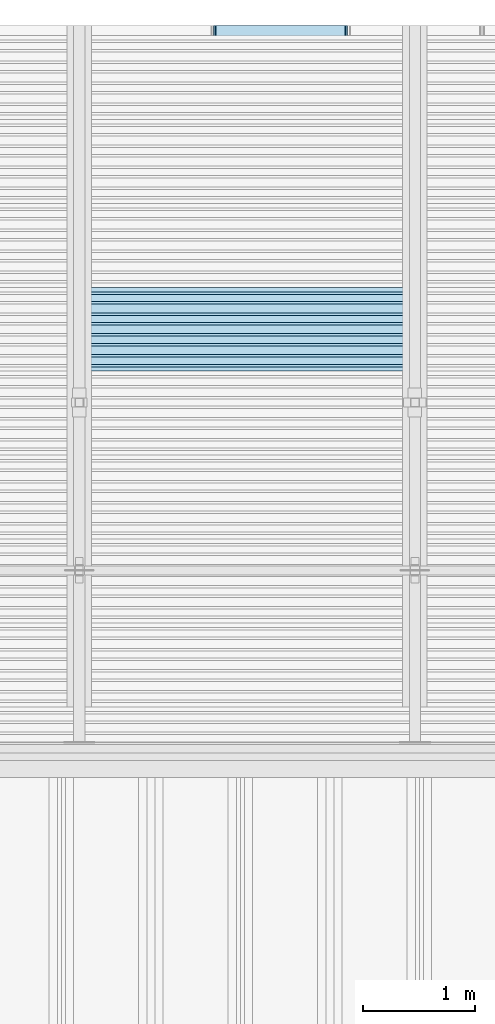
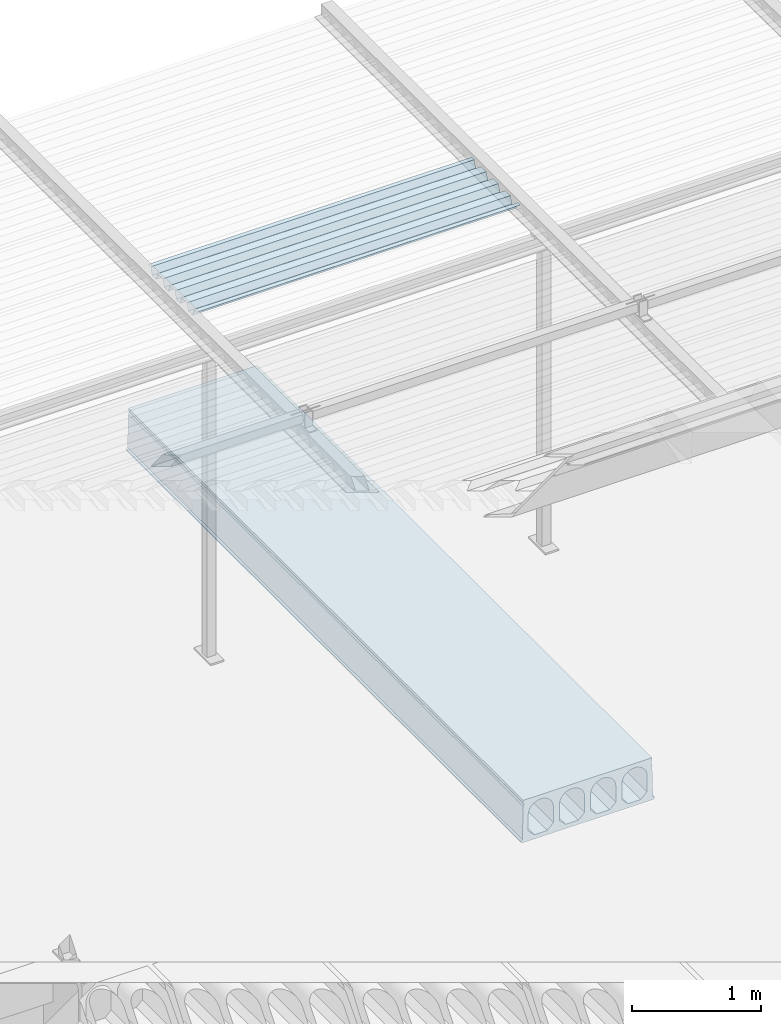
# One storey, part 88 of 98: 2 slabs.
"""IFC2X3 building model written with IfcOpenShell, lengths in millimetres."""

from ifc_helpers import new_model, entity, si_unit, converted_unit, derived_unit, direction, frame, origin_with_axes, place, context, subcontext, project, spatial, faceted_brep, material, type_object, element, save


model = new_model("IFC2X3")

# Units and contexts
model_context = context("Model", 3, precision=0.01, world=frame((0.0, 4.29681676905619e-09, 0.0)), true_north=direction((4.01073788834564e-13, 1.0)))
plan_context = context("Plan", 3, precision=0.01, world=frame((0.0, 4.29681676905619e-09, 0.0)), true_north=direction((4.01073788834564e-13, 1.0)))
body_context = subcontext(model_context, "Body", "Model", "MODEL_VIEW")
ifc_project = project(units=[converted_unit("PLANEANGLEUNIT", "DEGREE", entity("IfcPositiveLengthMeasure", 0.0174532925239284), si_unit("PLANEANGLEUNIT", "RADIAN"), dimensions=[0, 0, 0, 0, 0, 0, 0]), si_unit("AREAUNIT", "SQUARE_METRE"), si_unit("LENGTHUNIT", "METRE", prefix="MILLI"), si_unit("MASSUNIT", "GRAM", prefix="KILO"), si_unit("POWERUNIT", "WATT"), si_unit("PRESSUREUNIT", "PASCAL"), si_unit("FORCEUNIT", "NEWTON", prefix="KILO"), si_unit("ELECTRICCURRENTUNIT", "AMPERE"), si_unit("THERMODYNAMICTEMPERATUREUNIT", "DEGREE_CELSIUS"), si_unit("TIMEUNIT", "SECOND"), si_unit("VOLUMEUNIT", "CUBIC_METRE"), derived_unit("LINEARVELOCITYUNIT", [(si_unit("LENGTHUNIT", "METRE"), 1), (si_unit("TIMEUNIT", "SECOND"), -1)]), derived_unit("VOLUMETRICFLOWRATEUNIT", [(si_unit("VOLUMEUNIT", "CUBIC_METRE"), 1), (si_unit("TIMEUNIT", "SECOND"), -1)]), derived_unit("THERMALTRANSMITTANCEUNIT", [(si_unit("POWERUNIT", "WATT"), 1), (si_unit("THERMODYNAMICTEMPERATUREUNIT", "KELVIN"), -1), (si_unit("AREAUNIT", "SQUARE_METRE"), -1)])], contexts=[model_context, plan_context])

# Site, building, storey
site_placement = place(None, frame((0.0, -4.29681676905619e-09, 0.0), z_axis=(0.0, 0.0, 1.0), x_axis=(1.0, 0.0, 0.0)))
site = spatial("IfcSite", under=ifc_project, at=site_placement, Name="Gardermoen", CompositionType="ELEMENT")
building_placement = place(site_placement, frame((0.0, 4.29681676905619e-09, 0.0), z_axis=(0.0, 0.0, 1.0), x_axis=(1.0, 0.0, 0.0)))
building = spatial("IfcBuilding", under=site, at=building_placement, Name="TS", CompositionType="ELEMENT")
storey_placement = place(building_placement, origin_with_axes())
storey = spatial("IfcBuildingStorey", under=building, at=storey_placement, Name="D", CompositionType="ELEMENT", Elevation=0.0)

# Slabs
slab_type_1 = type_object("IfcSlabType", Name="HD400", PredefinedType="NOTDEFINED")
slab_1_placement = place(storey_placement, frame((524799.999766, 414739.995625, 203600.0), z_axis=(0.0, 0.0, 1.0), x_axis=(0.0, 1.0, 0.0)))
element("IfcSlab", 1, at=slab_1_placement, inside=storey, type_object=slab_type_1, Name="HULLDEKKE", ObjectType="HD400", PredefinedType="FLOOR", context=body_context, shape_type="Brep", body=[
    faceted_brep([(6130.19582840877, 600.0, -190.0), (6130.19582840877, 600.0, -180.0), (0.0, 600.0, -180.0), (0.0, 600.0, -190.0), (6130.19582840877, 585.0, -170.0), (0.0, 585.0, -170.0), (6130.19582840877, 577.5, 145.0), (0.0, 577.5, 145.0), (6130.19582840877, 570.0, 160.0), (0.0, 570.0, 160.0), (6130.19582840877, 577.5, 175.0), (0.0, 577.5, 175.0), (6130.19582840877, 577.5, 200.0), (0.0, 577.5, 200.0), (6130.19582840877, -577.5, 200.0), (0.0, -577.5, 200.0), (6130.19582840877, -577.5, 175.0), (0.0, -577.5, 175.0), (6130.19582840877, -570.0, 160.0), (0.0, -570.0, 160.0), (6130.19582840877, -577.5, 145.0), (0.0, -577.5, 145.0), (6130.19582840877, -585.0, -170.0), (0.0, -585.0, -170.0), (6130.19582840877, -600.0, -180.0), (0.0, -600.0, -180.0), (6130.19582840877, -600.0, -190.0), (0.0, -600.0, -190.0), (6130.19582840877, -583.380004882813, -200.0), (0.0, -583.380004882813, -200.0), (6130.19582840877, 583.380004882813, -200.0), (0.0, 583.380004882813, -200.0), (6130.19582840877, -362.5, -160.0), (6130.19582840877, -477.5, -160.0), (0.0, -477.5, -160.0), (0.0, -362.5, -160.0), (6130.19582840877, -532.5, -105.0), (0.0, -532.5, -105.0), (6130.19582840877, -532.5, 47.5), (0.0, -532.5, 47.5), (6130.19582840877, -532.115755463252, 56.7901763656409), (0.0, -532.115755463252, 56.7901763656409), (6130.19582840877, -530.965646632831, 66.0168914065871), (0.0, -530.965646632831, 66.0168914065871), (6130.19582840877, -529.057529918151, 75.1171173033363), (0.0, -529.057529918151, 75.1171173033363), (6130.19582840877, -526.404439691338, 84.028690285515), (0.0, -526.404439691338, 84.028690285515), (6130.19582840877, -523.024499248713, 92.6907352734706), (0.0, -523.024499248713, 92.6907352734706), (6130.19582840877, -518.940797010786, 101.044081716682), (0.0, -518.940797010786, 101.044081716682), (6130.19582840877, -514.181228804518, 109.031667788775), (0.0, -514.181228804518, 109.031667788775), (6130.19582840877, -508.778307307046, 116.598930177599), (0.0, -508.778307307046, 116.598930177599), (6130.19582840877, -502.768939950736, 123.694176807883), (0.0, -502.768939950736, 123.694176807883), (6130.19582840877, -496.194176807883, 130.268939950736), (0.0, -496.194176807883, 130.268939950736), (6130.19582840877, -489.098930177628, 136.278307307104), (0.0, -489.098930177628, 136.278307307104), (6130.19582840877, -481.531667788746, 141.681228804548), (0.0, -481.531667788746, 141.681228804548), (6130.19582840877, -473.544081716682, 146.440797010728), (0.0, -473.544081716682, 146.440797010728), (6130.19582840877, -465.190735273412, 150.524499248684), (0.0, -465.190735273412, 150.524499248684), (6130.19582840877, -456.528690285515, 153.904439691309), (0.0, -456.528690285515, 153.904439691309), (6130.19582840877, -447.617117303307, 156.55752991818), (0.0, -447.617117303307, 156.55752991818), (6130.19582840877, -438.516891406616, 158.465646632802), (0.0, -438.516891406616, 158.465646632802), (6130.19582840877, -429.290176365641, 159.615755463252), (0.0, -429.290176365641, 159.615755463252), (6130.19582840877, -420.0, 160.0), (0.0, -420.0, 160.0), (6130.19582840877, -410.709823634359, 159.615755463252), (0.0, -410.709823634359, 159.615755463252), (6130.19582840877, -401.483108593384, 158.465646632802), (0.0, -401.483108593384, 158.465646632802), (6130.19582840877, -392.382882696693, 156.55752991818), (0.0, -392.382882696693, 156.55752991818), (6130.19582840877, -383.471309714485, 153.904439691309), (0.0, -383.471309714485, 153.904439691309), (6130.19582840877, -374.809264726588, 150.524499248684), (0.0, -374.809264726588, 150.524499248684), (6130.19582840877, -366.455918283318, 146.440797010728), (0.0, -366.455918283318, 146.440797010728), (6130.19582840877, -358.468332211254, 141.681228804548), (0.0, -358.468332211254, 141.681228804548), (6130.19582840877, -350.901069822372, 136.278307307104), (0.0, -350.901069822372, 136.278307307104), (6130.19582840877, -343.805823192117, 130.268939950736), (0.0, -343.805823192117, 130.268939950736), (6130.19582840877, -337.231060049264, 123.694176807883), (0.0, -337.231060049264, 123.694176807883), (6130.19582840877, -331.221692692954, 116.598930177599), (0.0, -331.221692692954, 116.598930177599), (6130.19582840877, -325.818771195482, 109.031667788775), (0.0, -325.818771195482, 109.031667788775), (6130.19582840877, -321.059202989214, 101.044081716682), (0.0, -321.059202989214, 101.044081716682), (6130.19582840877, -316.975500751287, 92.6907352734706), (0.0, -316.975500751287, 92.6907352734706), (6130.19582840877, -313.595560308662, 84.028690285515), (0.0, -313.595560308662, 84.028690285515), (6130.19582840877, -310.942470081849, 75.1171173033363), (0.0, -310.942470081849, 75.1171173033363), (6130.19582840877, -309.034353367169, 66.0168914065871), (0.0, -309.034353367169, 66.0168914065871), (6130.19582840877, -307.884244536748, 56.7901763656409), (0.0, -307.884244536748, 56.7901763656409), (6130.19582840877, -307.5, 47.5), (0.0, -307.5, 47.5), (6130.19582840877, -307.5, -105.0), (0.0, -307.5, -105.0), (6130.19582840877, -82.5, -160.0), (6130.19582840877, -197.5, -160.0), (0.0, -197.5, -160.0), (0.0, -82.5, -160.0), (6130.19582840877, -252.5, -105.0), (0.0, -252.5, -105.0), (6130.19582840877, -252.5, 47.5), (0.0, -252.5, 47.5), (6130.19582840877, -252.115755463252, 56.7901763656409), (0.0, -252.115755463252, 56.7901763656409), (6130.19582840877, -250.965646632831, 66.0168914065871), (0.0, -250.965646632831, 66.0168914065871), (6130.19582840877, -249.057529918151, 75.1171173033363), (0.0, -249.057529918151, 75.1171173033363), (6130.19582840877, -246.404439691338, 84.028690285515), (0.0, -246.404439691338, 84.028690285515), (6130.19582840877, -243.024499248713, 92.6907352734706), (0.0, -243.024499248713, 92.6907352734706), (6130.19582840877, -238.940797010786, 101.044081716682), (0.0, -238.940797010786, 101.044081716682), (6130.19582840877, -234.181228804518, 109.031667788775), (0.0, -234.181228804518, 109.031667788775), (6130.19582840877, -228.778307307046, 116.598930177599), (0.0, -228.778307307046, 116.598930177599), (6130.19582840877, -222.768939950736, 123.694176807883), (0.0, -222.768939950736, 123.694176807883), (6130.19582840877, -216.194176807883, 130.268939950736), (0.0, -216.194176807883, 130.268939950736), (6130.19582840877, -209.098930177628, 136.278307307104), (0.0, -209.098930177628, 136.278307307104), (6130.19582840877, -201.531667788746, 141.681228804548), (0.0, -201.531667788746, 141.681228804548), (6130.19582840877, -193.544081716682, 146.440797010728), (0.0, -193.544081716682, 146.440797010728), (6130.19582840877, -185.190735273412, 150.524499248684), (0.0, -185.190735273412, 150.524499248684), (6130.19582840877, -176.528690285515, 153.904439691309), (0.0, -176.528690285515, 153.904439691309), (6130.19582840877, -167.617117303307, 156.55752991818), (0.0, -167.617117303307, 156.55752991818), (6130.19582840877, -158.516891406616, 158.465646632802), (0.0, -158.516891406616, 158.465646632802), (6130.19582840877, -149.290176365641, 159.615755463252), (0.0, -149.290176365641, 159.615755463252), (6130.19582840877, -140.0, 160.0), (0.0, -140.0, 160.0), (6130.19582840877, -130.709823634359, 159.615755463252), (0.0, -130.709823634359, 159.615755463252), (6130.19582840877, -121.483108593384, 158.465646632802), (0.0, -121.483108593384, 158.465646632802), (6130.19582840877, -112.382882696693, 156.55752991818), (0.0, -112.382882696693, 156.55752991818), (6130.19582840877, -103.471309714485, 153.904439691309), (0.0, -103.471309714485, 153.904439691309), (6130.19582840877, -94.8092647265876, 150.524499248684), (0.0, -94.8092647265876, 150.524499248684), (6130.19582840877, -86.4559182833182, 146.440797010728), (0.0, -86.4559182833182, 146.440797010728), (6130.19582840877, -78.4683322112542, 141.681228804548), (0.0, -78.4683322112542, 141.681228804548), (6130.19582840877, -70.9010698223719, 136.278307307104), (0.0, -70.9010698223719, 136.278307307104), (6130.19582840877, -63.8058231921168, 130.268939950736), (0.0, -63.8058231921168, 130.268939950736), (6130.19582840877, -57.2310600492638, 123.694176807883), (0.0, -57.2310600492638, 123.694176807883), (6130.19582840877, -51.2216926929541, 116.598930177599), (0.0, -51.2216926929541, 116.598930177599), (6130.19582840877, -45.8187711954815, 109.031667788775), (0.0, -45.8187711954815, 109.031667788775), (6130.19582840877, -41.0592029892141, 101.044081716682), (0.0, -41.0592029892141, 101.044081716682), (6130.19582840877, -36.9755007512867, 92.6907352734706), (0.0, -36.9755007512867, 92.6907352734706), (6130.19582840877, -33.5955603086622, 84.028690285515), (0.0, -33.5955603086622, 84.028690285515), (6130.19582840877, -30.942470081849, 75.1171173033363), (0.0, -30.942470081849, 75.1171173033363), (6130.19582840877, -29.0343533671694, 66.0168914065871), (0.0, -29.0343533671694, 66.0168914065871), (6130.19582840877, -27.8842445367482, 56.7901763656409), (0.0, -27.8842445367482, 56.7901763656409), (6130.19582840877, -27.5, 47.5), (0.0, -27.5, 47.5), (6130.19582840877, -27.5, -105.0), (0.0, -27.5, -105.0), (6130.19582840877, 197.5, -160.0), (6130.19582840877, 82.5, -160.0), (0.0, 82.5, -160.0), (0.0, 197.5, -160.0), (6130.19582840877, 27.5, -105.0), (0.0, 27.5, -105.0), (6130.19582840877, 27.5, 47.5), (0.0, 27.5, 47.5), (6130.19582840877, 27.8842445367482, 56.7901763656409), (0.0, 27.8842445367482, 56.7901763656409), (6130.19582840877, 29.0343533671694, 66.0168914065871), (0.0, 29.0343533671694, 66.0168914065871), (6130.19582840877, 30.942470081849, 75.1171173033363), (0.0, 30.942470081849, 75.1171173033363), (6130.19582840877, 33.5955603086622, 84.028690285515), (0.0, 33.5955603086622, 84.028690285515), (6130.19582840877, 36.9755007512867, 92.6907352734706), (0.0, 36.9755007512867, 92.6907352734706), (6130.19582840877, 41.0592029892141, 101.044081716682), (0.0, 41.0592029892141, 101.044081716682), (6130.19582840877, 45.8187711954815, 109.031667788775), (0.0, 45.8187711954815, 109.031667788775), (6130.19582840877, 51.2216926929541, 116.598930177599), (0.0, 51.2216926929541, 116.598930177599), (6130.19582840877, 57.2310600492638, 123.694176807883), (0.0, 57.2310600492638, 123.694176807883), (6130.19582840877, 63.8058231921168, 130.268939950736), (0.0, 63.8058231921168, 130.268939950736), (6130.19582840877, 70.9010698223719, 136.278307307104), (0.0, 70.9010698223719, 136.278307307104), (6130.19582840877, 78.4683322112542, 141.681228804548), (0.0, 78.4683322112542, 141.681228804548), (6130.19582840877, 86.4559182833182, 146.440797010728), (0.0, 86.4559182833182, 146.440797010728), (6130.19582840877, 94.8092647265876, 150.524499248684), (0.0, 94.8092647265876, 150.524499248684), (6130.19582840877, 103.471309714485, 153.904439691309), (0.0, 103.471309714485, 153.904439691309), (6130.19582840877, 112.382882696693, 156.55752991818), (0.0, 112.382882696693, 156.55752991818), (6130.19582840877, 121.483108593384, 158.465646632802), (0.0, 121.483108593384, 158.465646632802), (6130.19582840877, 130.709823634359, 159.615755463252), (0.0, 130.709823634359, 159.615755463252), (6130.19582840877, 140.0, 160.0), (0.0, 140.0, 160.0), (6130.19582840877, 149.290176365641, 159.615755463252), (0.0, 149.290176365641, 159.615755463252), (6130.19582840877, 158.516891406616, 158.465646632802), (0.0, 158.516891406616, 158.465646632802), (6130.19582840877, 167.617117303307, 156.55752991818), (0.0, 167.617117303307, 156.55752991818), (6130.19582840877, 176.528690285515, 153.904439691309), (0.0, 176.528690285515, 153.904439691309), (6130.19582840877, 185.190735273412, 150.524499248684), (0.0, 185.190735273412, 150.524499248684), (6130.19582840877, 193.544081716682, 146.440797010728), (0.0, 193.544081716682, 146.440797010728), (6130.19582840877, 201.531667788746, 141.681228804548), (0.0, 201.531667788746, 141.681228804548), (6130.19582840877, 209.098930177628, 136.278307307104), (0.0, 209.098930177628, 136.278307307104), (6130.19582840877, 216.194176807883, 130.268939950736), (0.0, 216.194176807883, 130.268939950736), (6130.19582840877, 222.768939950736, 123.694176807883), (0.0, 222.768939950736, 123.694176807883), (6130.19582840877, 228.778307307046, 116.598930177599), (0.0, 228.778307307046, 116.598930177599), (6130.19582840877, 234.181228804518, 109.031667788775), (0.0, 234.181228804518, 109.031667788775), (6130.19582840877, 238.940797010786, 101.044081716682), (0.0, 238.940797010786, 101.044081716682), (6130.19582840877, 243.024499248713, 92.6907352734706), (0.0, 243.024499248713, 92.6907352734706), (6130.19582840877, 246.404439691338, 84.028690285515), (0.0, 246.404439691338, 84.028690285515), (6130.19582840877, 249.057529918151, 75.1171173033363), (0.0, 249.057529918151, 75.1171173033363), (6130.19582840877, 250.965646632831, 66.0168914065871), (0.0, 250.965646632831, 66.0168914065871), (6130.19582840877, 252.115755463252, 56.7901763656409), (0.0, 252.115755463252, 56.7901763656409), (6130.19582840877, 252.5, 47.5), (0.0, 252.5, 47.5), (6130.19582840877, 252.5, -105.0), (0.0, 252.5, -105.0), (6130.19582840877, 477.5, -160.0), (6130.19582840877, 362.5, -160.0), (0.0, 362.5, -160.0), (0.0, 477.5, -160.0), (6130.19582840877, 307.5, -105.0), (0.0, 307.5, -105.0), (6130.19582840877, 307.5, 47.5), (0.0, 307.5, 47.5), (6130.19582840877, 307.884244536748, 56.7901763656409), (0.0, 307.884244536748, 56.7901763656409), (6130.19582840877, 309.034353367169, 66.0168914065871), (0.0, 309.034353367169, 66.0168914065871), (6130.19582840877, 310.942470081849, 75.1171173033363), (0.0, 310.942470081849, 75.1171173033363), (6130.19582840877, 313.595560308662, 84.028690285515), (0.0, 313.595560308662, 84.028690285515), (6130.19582840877, 316.975500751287, 92.6907352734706), (0.0, 316.975500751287, 92.6907352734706), (6130.19582840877, 321.059202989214, 101.044081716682), (0.0, 321.059202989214, 101.044081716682), (6130.19582840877, 325.818771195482, 109.031667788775), (0.0, 325.818771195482, 109.031667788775), (6130.19582840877, 331.221692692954, 116.598930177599), (0.0, 331.221692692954, 116.598930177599), (6130.19582840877, 337.231060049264, 123.694176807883), (0.0, 337.231060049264, 123.694176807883), (6130.19582840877, 343.805823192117, 130.268939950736), (0.0, 343.805823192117, 130.268939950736), (6130.19582840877, 350.901069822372, 136.278307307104), (0.0, 350.901069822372, 136.278307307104), (6130.19582840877, 358.468332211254, 141.681228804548), (0.0, 358.468332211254, 141.681228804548), (6130.19582840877, 366.455918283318, 146.440797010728), (0.0, 366.455918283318, 146.440797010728), (6130.19582840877, 374.809264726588, 150.524499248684), (0.0, 374.809264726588, 150.524499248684), (6130.19582840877, 383.471309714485, 153.904439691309), (0.0, 383.471309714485, 153.904439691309), (6130.19582840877, 392.382882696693, 156.55752991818), (0.0, 392.382882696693, 156.55752991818), (6130.19582840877, 401.483108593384, 158.465646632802), (0.0, 401.483108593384, 158.465646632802), (6130.19582840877, 410.709823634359, 159.615755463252), (0.0, 410.709823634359, 159.615755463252), (6130.19582840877, 420.0, 160.0), (0.0, 420.0, 160.0), (6130.19582840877, 429.290176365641, 159.615755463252), (0.0, 429.290176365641, 159.615755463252), (6130.19582840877, 438.516891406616, 158.465646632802), (0.0, 438.516891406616, 158.465646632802), (6130.19582840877, 447.617117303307, 156.55752991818), (0.0, 447.617117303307, 156.55752991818), (6130.19582840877, 456.528690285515, 153.904439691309), (0.0, 456.528690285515, 153.904439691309), (6130.19582840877, 465.190735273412, 150.524499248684), (0.0, 465.190735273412, 150.524499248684), (6130.19582840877, 473.544081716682, 146.440797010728), (0.0, 473.544081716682, 146.440797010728), (6130.19582840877, 481.531667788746, 141.681228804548), (0.0, 481.531667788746, 141.681228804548), (6130.19582840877, 489.098930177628, 136.278307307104), (0.0, 489.098930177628, 136.278307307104), (6130.19582840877, 496.194176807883, 130.268939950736), (0.0, 496.194176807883, 130.268939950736), (6130.19582840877, 502.768939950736, 123.694176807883), (0.0, 502.768939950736, 123.694176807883), (6130.19582840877, 508.778307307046, 116.598930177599), (0.0, 508.778307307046, 116.598930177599), (6130.19582840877, 514.181228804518, 109.031667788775), (0.0, 514.181228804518, 109.031667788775), (6130.19582840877, 518.940797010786, 101.044081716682), (0.0, 518.940797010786, 101.044081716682), (6130.19582840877, 523.024499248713, 92.6907352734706), (0.0, 523.024499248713, 92.6907352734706), (6130.19582840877, 526.404439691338, 84.028690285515), (0.0, 526.404439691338, 84.028690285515), (6130.19582840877, 529.057529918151, 75.1171173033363), (0.0, 529.057529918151, 75.1171173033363), (6130.19582840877, 530.965646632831, 66.0168914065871), (0.0, 530.965646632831, 66.0168914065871), (6130.19582840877, 532.115755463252, 56.7901763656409), (0.0, 532.115755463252, 56.7901763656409), (6130.19582840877, 532.5, 47.5), (0.0, 532.5, 47.5), (6130.19582840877, 532.5, -105.0), (0.0, 532.5, -105.0)], [[[0, 1, 2, 3]], [[1, 4, 5, 2]], [[4, 6, 7, 5]], [[6, 8, 9, 7]], [[8, 10, 11, 9]], [[10, 12, 13, 11]], [[12, 14, 15, 13]], [[14, 16, 17, 15]], [[16, 18, 19, 17]], [[18, 20, 21, 19]], [[20, 22, 23, 21]], [[22, 24, 25, 23]], [[24, 26, 27, 25]], [[26, 28, 29, 27]], [[28, 30, 31, 29]], [[30, 0, 3, 31]], [[32, 33, 34, 35]], [[33, 36, 37, 34]], [[36, 38, 39, 37]], [[38, 40, 41, 39]], [[40, 42, 43, 41]], [[42, 44, 45, 43]], [[44, 46, 47, 45]], [[46, 48, 49, 47]], [[48, 50, 51, 49]], [[50, 52, 53, 51]], [[52, 54, 55, 53]], [[54, 56, 57, 55]], [[56, 58, 59, 57]], [[58, 60, 61, 59]], [[60, 62, 63, 61]], [[62, 64, 65, 63]], [[64, 66, 67, 65]], [[66, 68, 69, 67]], [[68, 70, 71, 69]], [[70, 72, 73, 71]], [[72, 74, 75, 73]], [[74, 76, 77, 75]], [[76, 78, 79, 77]], [[78, 80, 81, 79]], [[80, 82, 83, 81]], [[82, 84, 85, 83]], [[84, 86, 87, 85]], [[86, 88, 89, 87]], [[88, 90, 91, 89]], [[90, 92, 93, 91]], [[92, 94, 95, 93]], [[94, 96, 97, 95]], [[96, 98, 99, 97]], [[98, 100, 101, 99]], [[100, 102, 103, 101]], [[102, 104, 105, 103]], [[104, 106, 107, 105]], [[106, 108, 109, 107]], [[108, 110, 111, 109]], [[110, 112, 113, 111]], [[112, 114, 115, 113]], [[114, 116, 117, 115]], [[116, 32, 35, 117]], [[118, 119, 120, 121]], [[119, 122, 123, 120]], [[122, 124, 125, 123]], [[124, 126, 127, 125]], [[126, 128, 129, 127]], [[128, 130, 131, 129]], [[130, 132, 133, 131]], [[132, 134, 135, 133]], [[134, 136, 137, 135]], [[136, 138, 139, 137]], [[138, 140, 141, 139]], [[140, 142, 143, 141]], [[142, 144, 145, 143]], [[144, 146, 147, 145]], [[146, 148, 149, 147]], [[148, 150, 151, 149]], [[150, 152, 153, 151]], [[152, 154, 155, 153]], [[154, 156, 157, 155]], [[156, 158, 159, 157]], [[158, 160, 161, 159]], [[160, 162, 163, 161]], [[162, 164, 165, 163]], [[164, 166, 167, 165]], [[166, 168, 169, 167]], [[168, 170, 171, 169]], [[170, 172, 173, 171]], [[172, 174, 175, 173]], [[174, 176, 177, 175]], [[176, 178, 179, 177]], [[178, 180, 181, 179]], [[180, 182, 183, 181]], [[182, 184, 185, 183]], [[184, 186, 187, 185]], [[186, 188, 189, 187]], [[188, 190, 191, 189]], [[190, 192, 193, 191]], [[192, 194, 195, 193]], [[194, 196, 197, 195]], [[196, 198, 199, 197]], [[198, 200, 201, 199]], [[200, 202, 203, 201]], [[202, 118, 121, 203]], [[204, 205, 206, 207]], [[205, 208, 209, 206]], [[208, 210, 211, 209]], [[210, 212, 213, 211]], [[212, 214, 215, 213]], [[214, 216, 217, 215]], [[216, 218, 219, 217]], [[218, 220, 221, 219]], [[220, 222, 223, 221]], [[222, 224, 225, 223]], [[224, 226, 227, 225]], [[226, 228, 229, 227]], [[228, 230, 231, 229]], [[230, 232, 233, 231]], [[232, 234, 235, 233]], [[234, 236, 237, 235]], [[236, 238, 239, 237]], [[238, 240, 241, 239]], [[240, 242, 243, 241]], [[242, 244, 245, 243]], [[244, 246, 247, 245]], [[246, 248, 249, 247]], [[248, 250, 251, 249]], [[250, 252, 253, 251]], [[252, 254, 255, 253]], [[254, 256, 257, 255]], [[256, 258, 259, 257]], [[258, 260, 261, 259]], [[260, 262, 263, 261]], [[262, 264, 265, 263]], [[264, 266, 267, 265]], [[266, 268, 269, 267]], [[268, 270, 271, 269]], [[270, 272, 273, 271]], [[272, 274, 275, 273]], [[274, 276, 277, 275]], [[276, 278, 279, 277]], [[278, 280, 281, 279]], [[280, 282, 283, 281]], [[282, 284, 285, 283]], [[284, 286, 287, 285]], [[286, 288, 289, 287]], [[288, 204, 207, 289]], [[290, 291, 292, 293]], [[291, 294, 295, 292]], [[294, 296, 297, 295]], [[296, 298, 299, 297]], [[298, 300, 301, 299]], [[300, 302, 303, 301]], [[302, 304, 305, 303]], [[304, 306, 307, 305]], [[306, 308, 309, 307]], [[308, 310, 311, 309]], [[310, 312, 313, 311]], [[312, 314, 315, 313]], [[314, 316, 317, 315]], [[316, 318, 319, 317]], [[318, 320, 321, 319]], [[320, 322, 323, 321]], [[322, 324, 325, 323]], [[324, 326, 327, 325]], [[326, 328, 329, 327]], [[328, 330, 331, 329]], [[330, 332, 333, 331]], [[332, 334, 335, 333]], [[334, 336, 337, 335]], [[336, 338, 339, 337]], [[338, 340, 341, 339]], [[340, 342, 343, 341]], [[342, 344, 345, 343]], [[344, 346, 347, 345]], [[346, 348, 349, 347]], [[348, 350, 351, 349]], [[350, 352, 353, 351]], [[352, 354, 355, 353]], [[354, 356, 357, 355]], [[356, 358, 359, 357]], [[358, 360, 361, 359]], [[360, 362, 363, 361]], [[362, 364, 365, 363]], [[364, 366, 367, 365]], [[366, 368, 369, 367]], [[368, 370, 371, 369]], [[370, 372, 373, 371]], [[372, 374, 375, 373]], [[374, 290, 293, 375]], [[3, 2, 5, 7, 9, 11, 13, 15, 17, 19, 21, 23, 25, 27, 29, 31], [293, 292, 295, 297, 299, 301, 303, 305, 307, 309, 311, 313, 315, 317, 319, 321, 323, 325, 327, 329, 331, 333, 335, 337, 339, 341, 343, 345, 347, 349, 351, 353, 355, 357, 359, 361, 363, 365, 367, 369, 371, 373, 375], [207, 206, 209, 211, 213, 215, 217, 219, 221, 223, 225, 227, 229, 231, 233, 235, 237, 239, 241, 243, 245, 247, 249, 251, 253, 255, 257, 259, 261, 263, 265, 267, 269, 271, 273, 275, 277, 279, 281, 283, 285, 287, 289], [121, 120, 123, 125, 127, 129, 131, 133, 135, 137, 139, 141, 143, 145, 147, 149, 151, 153, 155, 157, 159, 161, 163, 165, 167, 169, 171, 173, 175, 177, 179, 181, 183, 185, 187, 189, 191, 193, 195, 197, 199, 201, 203], [35, 34, 37, 39, 41, 43, 45, 47, 49, 51, 53, 55, 57, 59, 61, 63, 65, 67, 69, 71, 73, 75, 77, 79, 81, 83, 85, 87, 89, 91, 93, 95, 97, 99, 101, 103, 105, 107, 109, 111, 113, 115, 117]], [[30, 28, 26, 24, 22, 20, 18, 16, 14, 12, 10, 8, 6, 4, 1, 0], [116, 114, 112, 110, 108, 106, 104, 102, 100, 98, 96, 94, 92, 90, 88, 86, 84, 82, 80, 78, 76, 74, 72, 70, 68, 66, 64, 62, 60, 58, 56, 54, 52, 50, 48, 46, 44, 42, 40, 38, 36, 33, 32], [202, 200, 198, 196, 194, 192, 190, 188, 186, 184, 182, 180, 178, 176, 174, 172, 170, 168, 166, 164, 162, 160, 158, 156, 154, 152, 150, 148, 146, 144, 142, 140, 138, 136, 134, 132, 130, 128, 126, 124, 122, 119, 118], [288, 286, 284, 282, 280, 278, 276, 274, 272, 270, 268, 266, 264, 262, 260, 258, 256, 254, 252, 250, 248, 246, 244, 242, 240, 238, 236, 234, 232, 230, 228, 226, 224, 222, 220, 218, 216, 214, 212, 210, 208, 205, 204], [374, 372, 370, 368, 366, 364, 362, 360, 358, 356, 354, 352, 350, 348, 346, 344, 342, 340, 338, 336, 334, 332, 330, 328, 326, 324, 322, 320, 318, 316, 314, 312, 310, 308, 306, 304, 302, 300, 298, 296, 294, 291, 290]]], orient=[[False], [False], [False], [False], [False], [False], [False], [False], [False], [False], [False], [False], [False], [False], [False], [False], [False], [False], [False], [False], [False], [False], [False], [False], [False], [False], [False], [False], [False], [False], [False], [False], [False], [False], [False], [False], [False], [False], [False], [False], [False], [False], [False], [False], [False], [False], [False], [False], [False], [False], [False], [False], [False], [False], [False], [False], [False], [False], [False], [False], [False], [False], [False], [False], [False], [False], [False], [False], [False], [False], [False], [False], [False], [False], [False], [False], [False], [False], [False], [False], [False], [False], [False], [False], [False], [False], [False], [False], [False], [False], [False], [False], [False], [False], [False], [False], [False], [False], [False], [False], [False], [False], [False], [False], [False], [False], [False], [False], [False], [False], [False], [False], [False], [False], [False], [False], [False], [False], [False], [False], [False], [False], [False], [False], [False], [False], [False], [False], [False], [False], [False], [False], [False], [False], [False], [False], [False], [False], [False], [False], [False], [False], [False], [False], [False], [False], [False], [False], [False], [False], [False], [False], [False], [False], [False], [False], [False], [False], [False], [False], [False], [False], [False], [False], [False], [False], [False], [False], [False], [False], [False], [False], [False], [False], [False], [False], [False], [False], [False], [False], [False], [False], [False], [False], [False], [False], [False], [False], [False, False, False, False, False], [False, False, False, False, False]]),
])
ifc_material = material(Name="STEEL/S355")
slab_type_2 = type_object("IfcSlabType", Name="PLANJA70", PredefinedType="NOTDEFINED")
slab_2_placement = place(storey_placement, frame((525950.000000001, 418154.996695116, 206958.849718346), z_axis=(0.0, 0.0, 1.0), x_axis=(-0.999999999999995, -9.99999902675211e-08, 0.0)))
element("IfcSlab", 2, at=slab_2_placement, inside=storey, type_object=slab_type_2, material=ifc_material, Name="STÅLTAK", ObjectType="PLANJA70", PredefinedType="FLOOR", context=body_context, shape_type="Brep", body=[
    faceted_brep([(0.0, 375.0, 34.1500015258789), (0.0, 335.299987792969, 34.1500015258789), (2900.00079747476, 335.299987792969, 34.1500015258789), (2900.00079747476, 375.0, 34.1500015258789), (0.0, 313.010681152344, -32.1500015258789), (2900.00079747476, 313.010681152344, -32.1500015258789), (0.0, 249.489303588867, -32.1500015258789), (2900.00079747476, 249.489303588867, -32.1500015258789), (0.0, 227.199996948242, 34.1500015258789), (2900.00079747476, 227.199996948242, 34.1500015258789), (0.0, 147.800003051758, 34.1500015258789), (2900.00079747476, 147.800003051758, 34.1500015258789), (0.0, 125.280120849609, -33.1500015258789), (2900.00079747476, 125.280120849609, -33.1500015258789), (0.0, 62.2198791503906, -33.1500015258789), (2900.00079747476, 62.2198791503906, -33.1500015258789), (0.0, 39.7000007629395, 34.1500015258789), (2900.00079747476, 39.7000007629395, 34.1500015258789), (0.0, -39.7000007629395, 34.1500015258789), (2900.00079747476, -39.7000007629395, 34.1500015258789), (0.0, -62.2198791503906, -33.1500015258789), (2900.00079747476, -62.2198791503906, -33.1500015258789), (0.0, -125.280120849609, -33.1500015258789), (2900.00079747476, -125.280120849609, -33.1500015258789), (0.0, -147.800003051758, 34.1500015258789), (2900.00079747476, -147.800003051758, 34.1500015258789), (0.0, -227.199996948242, 34.1500015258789), (2900.00079747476, -227.199996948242, 34.1500015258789), (0.0, -249.719879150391, -33.1500015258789), (2900.00079747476, -249.719879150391, -33.1500015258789), (0.0, -312.781188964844, -33.1500015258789), (2900.00079747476, -312.781188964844, -33.1500015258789), (0.0, -335.070495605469, 33.1500015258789), (2900.00079747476, -335.070495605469, 33.1500015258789), (0.0, -375.0, 33.1500015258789), (2900.00079747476, -375.0, 33.1500015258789), (0.0, -375.0, 32.1500015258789), (2900.00079747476, -375.0, 32.1500015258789), (0.0, -335.789306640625, 32.1500015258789), (2900.00079747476, -335.789306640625, 32.1500015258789), (0.0, -313.5, -34.1500015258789), (2900.00079747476, -313.5, -34.1500015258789), (0.0, -249.0, -34.1500015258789), (2900.00079747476, -249.0, -34.1500015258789), (0.0, -226.480117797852, 33.1500015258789), (2900.00079747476, -226.480117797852, 33.1500015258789), (0.0, -148.519882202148, 33.1500015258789), (2900.00079747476, -148.519882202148, 33.1500015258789), (0.0, -126.0, -34.1500015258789), (2900.00079747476, -126.0, -34.1500015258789), (0.0, -61.5, -34.1500015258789), (2900.00079747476, -61.5, -34.1500015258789), (0.0, -38.9801177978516, 33.1500015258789), (2900.00079747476, -38.9801177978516, 33.1500015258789), (0.0, 38.9801177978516, 33.1500015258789), (2900.00079747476, 38.9801177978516, 33.1500015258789), (0.0, 61.5, -34.1500015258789), (2900.00079747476, 61.5, -34.1500015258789), (0.0, 126.0, -34.1500015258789), (2900.00079747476, 126.0, -34.1500015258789), (0.0, 148.519882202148, 33.1500015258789), (2900.00079747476, 148.519882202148, 33.1500015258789), (0.0, 226.481185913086, 33.1500015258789), (2900.00079747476, 226.481185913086, 33.1500015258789), (0.0, 248.770492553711, -33.1500015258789), (2900.00079747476, 248.770492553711, -33.1500015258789), (0.0, 313.7294921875, -33.1500015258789), (2900.00079747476, 313.7294921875, -33.1500015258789), (0.0, 336.018798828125, 33.1500015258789), (2900.00079747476, 336.018798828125, 33.1500015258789), (0.0, 375.0, 33.1500015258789), (2900.00079747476, 375.0, 33.1500015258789)], [[[0, 1, 2, 3]], [[1, 4, 5, 2]], [[4, 6, 7, 5]], [[6, 8, 9, 7]], [[8, 10, 11, 9]], [[10, 12, 13, 11]], [[12, 14, 15, 13]], [[14, 16, 17, 15]], [[16, 18, 19, 17]], [[18, 20, 21, 19]], [[22, 23, 21, 20]], [[22, 24, 25, 23]], [[24, 26, 27, 25]], [[26, 28, 29, 27]], [[28, 30, 31, 29]], [[30, 32, 33, 31]], [[32, 34, 35, 33]], [[34, 36, 37, 35]], [[36, 38, 39, 37]], [[38, 40, 41, 39]], [[40, 42, 43, 41]], [[42, 44, 45, 43]], [[44, 46, 47, 45]], [[46, 48, 49, 47]], [[48, 50, 51, 49]], [[50, 52, 53, 51]], [[52, 54, 55, 53]], [[54, 56, 57, 55]], [[56, 58, 59, 57]], [[58, 60, 61, 59]], [[60, 62, 63, 61]], [[62, 64, 65, 63]], [[64, 66, 67, 65]], [[66, 68, 69, 67]], [[68, 70, 71, 69]], [[70, 0, 3, 71]], [[5, 7, 9, 11, 13, 15, 17, 19, 21, 23, 25, 27, 29, 31, 33, 35, 37, 39, 41, 43, 45, 47, 49, 51, 53, 55, 57, 59, 61, 63, 65, 67, 69, 71, 3, 2]], [[70, 68, 66, 64, 62, 60, 58, 56, 54, 52, 50, 48, 46, 44, 42, 40, 38, 36, 34, 32, 30, 28, 26, 24, 22, 20, 18, 16, 14, 12, 10, 8, 6, 4, 1, 0]]]),
])

save(model, "model.ifc")
